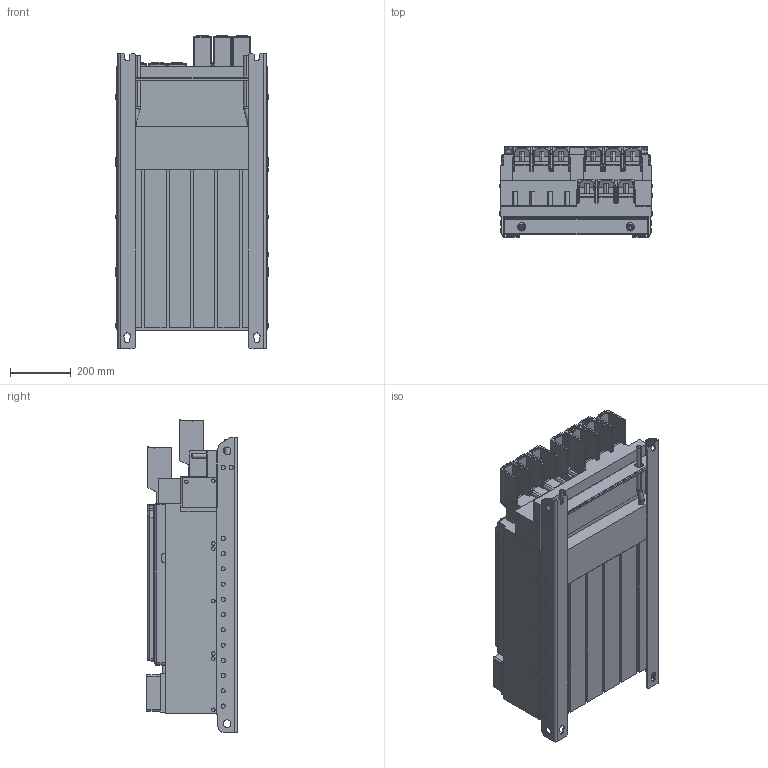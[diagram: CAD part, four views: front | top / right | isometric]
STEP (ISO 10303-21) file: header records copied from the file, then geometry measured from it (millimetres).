
FILE_DESCRIPTION (( 'STEP AP214' ), '1' );
FILE_NAME ('F6-9-TK5-A011.STEP', '2023-11-27T08:23:17', ( '' ), ( '' ), 'SwSTEP 2.0', 'SolidWorks 2022', '' );
FILE_SCHEMA (( 'AUTOMOTIVE_DESIGN' ));
Length unit declared in the file: millimetre
Products named in the file (12): 10051076_000_Kundenmodell; 10054881_000_Deckel (Kundenmodell); 10064851_000_Kundenmodell (mit BW''s); Kundenmodell^10051076_000_Kundenmodell mit Geberbuchsen; 10049764_000_Kundenmodell; Kundenmodell mit BW^10068648_000; 10068648_000_Kundenmodell mit BW; Kundenmodell^10059764_000; 10059764_000_Blindabdeckung (Kundenmodell); F6-9-TK5-A011; Kundenmodell^10049764_000; Kundenmodell^10054881_000
Assembly tree (11 placements, depth 4):
  F6-9-TK5-A011
    10064851_000_Kundenmodell (mit BW''s)
      10068648_000_Kundenmodell mit BW
        Kundenmodell mit BW^10068648_000
    10049764_000_Kundenmodell
      Kundenmodell^10049764_000
    10051076_000_Kundenmodell
      10059764_000_Blindabdeckung (Kundenmodell)
        Kundenmodell^10059764_000
      Kundenmodell^10051076_000_Kundenmodell mit Geberbuchsen
    10054881_000_Deckel (Kundenmodell)
      Kundenmodell^10054881_000
Bounding box: 502.5 x 296.5 x 1028.38 mm (x, y, z)
Volume: 99649041.3 mm3; surface area: 4424672 mm2
Topology: 5 solids, 5 shells, 2733 faces, 7107 edges, 4456 vertices
Faces by surface type: plane 1277, cylinder 897, bspline 274, cone 120, sphere 92, torus 73
Entity records: 91705 total; most frequent: CARTESIAN_POINT 26340, ORIENTED_EDGE 14046, DIRECTION 12951, EDGE_CURVE 7023, VERTEX_POINT 4456, AXIS2_PLACEMENT_3D 4347, VECTOR 4257, LINE 4257
